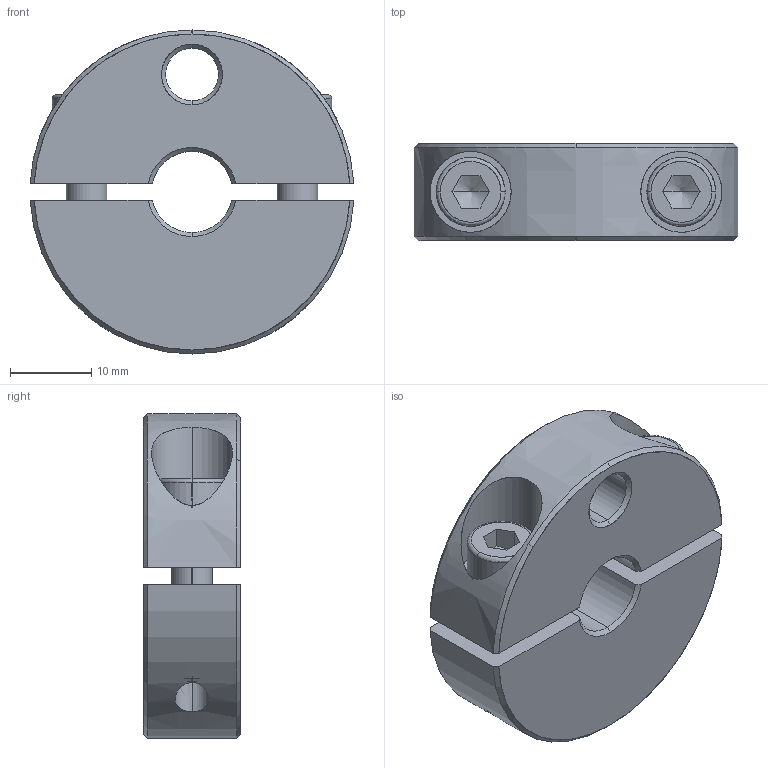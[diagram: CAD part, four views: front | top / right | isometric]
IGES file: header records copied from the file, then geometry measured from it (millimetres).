
Start section: SolidWorks IGES FILE using analytic representation for surfaces
Global section: file name: C:\WIX2\Positioning\3865\3865W110.igs; native system: SolidWorks 2003 by SolidWorks Corporation; preprocessor: Version 5.3; author: Joan; date: 030722.172943; units: millimetre
Bounding box: 39.95 x 12 x 40 mm (x, y, z)
Surface area: 6842.9 mm2 (no closed solid volume)
Topology: 0 solids, 0 shells, 101 faces, 1640 edges, 1636 vertices
Faces by surface type: revolution 67, bspline 34
